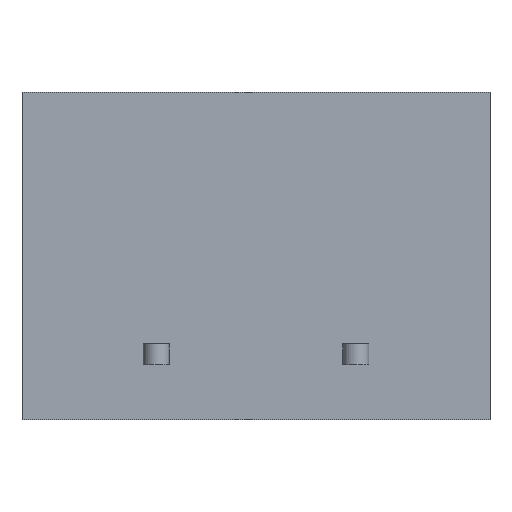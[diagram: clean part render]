
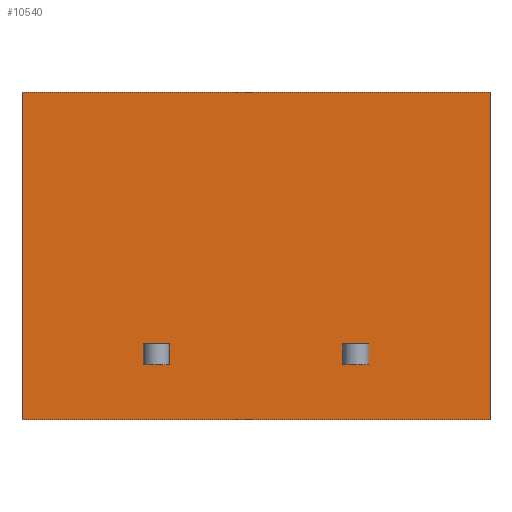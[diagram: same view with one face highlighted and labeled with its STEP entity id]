
A CAD part, front view. The second image highlights one B-rep face of the part: STEP entity #10540.
In plain terms, the highlighted planar face has unit normal (0, -1, 0).
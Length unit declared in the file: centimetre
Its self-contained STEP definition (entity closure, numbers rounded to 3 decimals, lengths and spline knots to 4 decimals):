
#721=VERTEX_POINT('',#13299);
#722=VERTEX_POINT('',#13300);
#729=VERTEX_POINT('',#13316);
#743=VERTEX_POINT('',#13348);
#1263=VERTEX_POINT('',#15469);
#1264=VERTEX_POINT('',#15471);
#1268=VERTEX_POINT('',#15492);
#1269=VERTEX_POINT('',#15493);
#1272=VERTEX_POINT('',#15501);
#1274=VERTEX_POINT('',#15507);
#1625=VERTEX_POINT('',#17055);
#1626=VERTEX_POINT('',#17057);
#1746=VECTOR('',#11225,1.);
#1754=VECTOR('',#11234,1.);
#1768=VECTOR('',#11254,1.);
#1771=VECTOR('',#11262,1.);
#2357=VECTOR('',#12201,1.);
#2368=VECTOR('',#12218,1.);
#2371=VECTOR('',#12224,1.);
#2374=VECTOR('',#12228,1.);
#2392=VECTOR('',#12254,1.);
#2795=VECTOR('',#12813,1.);
#2816=VECTOR('',#12845,1.);
#2817=VECTOR('',#12847,1.);
#2926=LINE('',#13298,#1746);
#2934=LINE('',#13315,#1754);
#2948=LINE('',#13347,#1768);
#2951=LINE('',#13355,#1771);
#3537=LINE('',#15470,#2357);
#3548=LINE('',#15491,#2368);
#3551=LINE('',#15500,#2371);
#3554=LINE('',#15506,#2374);
#3572=LINE('',#15545,#2392);
#3975=LINE('',#17056,#2795);
#3996=LINE('',#17099,#2816);
#3997=LINE('',#17101,#2817);
#4181=EDGE_CURVE('',#721,#722,#2926,.T.);
#4189=EDGE_CURVE('',#729,#721,#2934,.T.);
#4204=EDGE_CURVE('',#722,#743,#2948,.T.);
#4208=EDGE_CURVE('',#743,#729,#2951,.T.);
#4985=EDGE_CURVE('',#1264,#1263,#3537,.T.);
#4996=EDGE_CURVE('',#1268,#1269,#3548,.T.);
#5000=EDGE_CURVE('',#1269,#1272,#3551,.T.);
#5003=EDGE_CURVE('',#1272,#1274,#3554,.T.);
#5022=EDGE_CURVE('',#1274,#1268,#3572,.T.);
#5535=EDGE_CURVE('',#1626,#1625,#3975,.T.);
#5557=EDGE_CURVE('',#1263,#1626,#3996,.T.);
#5558=EDGE_CURVE('',#1264,#1625,#3997,.T.);
#8644=ORIENTED_EDGE('',*,*,#4189,.T.);
#8645=ORIENTED_EDGE('',*,*,#4181,.T.);
#8646=ORIENTED_EDGE('',*,*,#4204,.T.);
#8647=ORIENTED_EDGE('',*,*,#4208,.T.);
#8648=ORIENTED_EDGE('',*,*,#5003,.F.);
#8649=ORIENTED_EDGE('',*,*,#5000,.F.);
#8650=ORIENTED_EDGE('',*,*,#4996,.F.);
#8651=ORIENTED_EDGE('',*,*,#5022,.F.);
#8652=ORIENTED_EDGE('',*,*,#5557,.T.);
#8653=ORIENTED_EDGE('',*,*,#5535,.T.);
#8654=ORIENTED_EDGE('',*,*,#5558,.F.);
#8655=ORIENTED_EDGE('',*,*,#4985,.T.);
#9318=EDGE_LOOP('',(#8644,#8645,#8646,#8647));
#9319=EDGE_LOOP('',(#8648,#8649,#8650,#8651));
#9320=EDGE_LOOP('',(#8652,#8653,#8654,#8655));
#9956=FACE_BOUND('',#9318,.T.);
#9957=FACE_BOUND('',#9319,.T.);
#9958=FACE_BOUND('',#9320,.T.);
#10540=ADVANCED_FACE('',(#9956,#9957,#9958),#10947,.T.);
#10947=PLANE('',#17671);
#11225=DIRECTION('',(0.,0.,-1.));
#11234=DIRECTION('',(1.,0.,0.));
#11254=DIRECTION('',(-1.,0.,0.));
#11262=DIRECTION('',(0.,0.,1.));
#12201=DIRECTION('',(0.,0.,1.));
#12218=DIRECTION('',(1.,0.,0.));
#12224=DIRECTION('',(0.,0.,1.));
#12228=DIRECTION('',(-1.,0.,0.));
#12254=DIRECTION('',(0.,0.,-1.));
#12813=DIRECTION('',(0.,0.,-1.));
#12845=DIRECTION('',(-1.,0.,0.));
#12846=DIRECTION('',(0.,-1.,0.));
#12847=DIRECTION('',(-1.,0.,0.));
#13298=CARTESIAN_POINT('',(-1.164,0.,0.1875));
#13299=CARTESIAN_POINT('',(-1.164,0.,0.415));
#13300=CARTESIAN_POINT('',(-1.164,0.,0.335));
#13315=CARTESIAN_POINT('',(-1.369,0.,0.415));
#13316=CARTESIAN_POINT('',(-1.264,0.,0.415));
#13347=CARTESIAN_POINT('',(-1.369,0.,0.335));
#13348=CARTESIAN_POINT('',(-1.264,0.,0.335));
#13355=CARTESIAN_POINT('',(-1.264,0.,0.1875));
#15469=CARTESIAN_POINT('',(0.06,0.,0.625));
#15470=CARTESIAN_POINT('',(0.06,0.,0.625));
#15471=CARTESIAN_POINT('',(0.06,0.,-0.625));
#15491=CARTESIAN_POINT('',(-0.297,0.,0.335));
#15492=CARTESIAN_POINT('',(-0.502,0.,0.335));
#15493=CARTESIAN_POINT('',(-0.402,0.,0.335));
#15500=CARTESIAN_POINT('',(-0.402,0.,0.1875));
#15501=CARTESIAN_POINT('',(-0.402,0.,0.415));
#15506=CARTESIAN_POINT('',(-0.297,0.,0.415));
#15507=CARTESIAN_POINT('',(-0.502,0.,0.415));
#15545=CARTESIAN_POINT('',(-0.502,0.,0.1875));
#17055=CARTESIAN_POINT('',(-1.726,0.,-0.625));
#17056=CARTESIAN_POINT('',(-1.726,0.,-0.625));
#17057=CARTESIAN_POINT('',(-1.726,0.,0.625));
#17099=CARTESIAN_POINT('',(0.,0.,0.625));
#17100=CARTESIAN_POINT('',(-1.524,0.,0.));
#17101=CARTESIAN_POINT('',(0.,0.,-0.625));
#17671=AXIS2_PLACEMENT_3D('',#17100,#12846,$);
